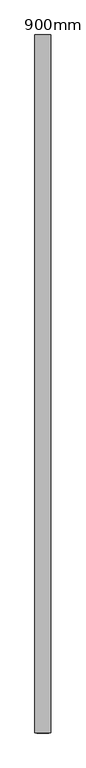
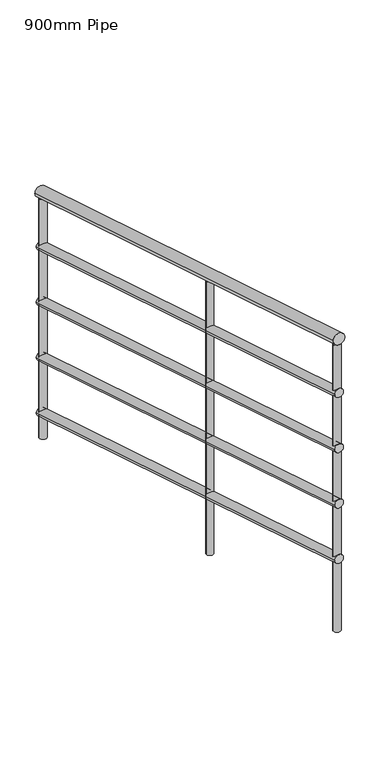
"""IFC4 building model written with IfcOpenShell, lengths in millimetres: railing geometry, 900mm Pipe."""

from ifc_helpers import new_model, si_unit, frame, origin, place, context, project, spatial, circle_curve, ellipse_curve, source, transform, mapped, element, save
from ifc_brep_helpers import plane_surface, cylinder_surface, advanced_brep


def railing_900mm_pipe_833d7426(model_context):
    return source(origin(), model_context, "Body", "AdvancedBrep", [
        advanced_brep(
        [(983189.0192027, 18555.1016126, 8258.386247), (983229.0192027, 18555.1016126, 8258.386247), (983189.0192027, 16789.8692967, 8796.2686), (983229.0192027, 16789.8692967, 8796.2686)],
        [
            (0, 1, ellipse_curve(frame((983209.0192027, 18555.1016126, 8258.386247), z_axis=(0.0, 1.0, 0.0), x_axis=(0.0, 0.0, -1.0)), 20.9078706, 20.0)),
            (1, 0, ellipse_curve(frame((983209.0192027, 18555.1016126, 8258.386247), z_axis=(0.0, 1.0, 0.0), x_axis=(0.0, 0.0, -1.0)), 20.9078706, 20.0)),
            (2, 3, ellipse_curve(frame((983209.0192027, 16789.8692967, 8796.2686), z_axis=(0.0, -1.0, 0.0), x_axis=(0.0, 0.0, -1.0)), 20.9078706, 20.0)),
            (3, 2, ellipse_curve(frame((983209.0192027, 16789.8692967, 8796.2686), z_axis=(0.0, -1.0, 0.0), x_axis=(0.0, 0.0, -1.0)), 20.9078706, 20.0)),
            (1, 3),
            (2, 0),
        ],
        [
            plane_surface(frame((983209.0192027, 18555.1016126, 8279.2941176), z_axis=(0.0, 1.0, 0.0), x_axis=(0.0, 0.0, -1.0))),
            plane_surface(frame((983209.0192027, 16789.8692967, 8817.1764706), z_axis=(0.0, -1.0, 0.0), x_axis=(0.0, 0.0, -1.0))),
            cylinder_surface(frame((983209.0192027, 18549.2720548, 8260.1625663), z_axis=(0.0, 0.9565775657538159, -0.29147789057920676), x_axis=(1.0, 0.0, 0.0)), 20.0),
        ],
        [
            (0, [[1, 2]]),
            (1, [[3, 4]]),
            (2, [[-2, 5, -3, 6]]),
            (2, [[-1, -6, -4, -5]]),
        ],
    ),
        advanced_brep(
        [(983194.0192027, 18555.1016126, 8063.6132147), (983224.0192027, 18555.1016126, 8063.6132147), (983194.0192027, 16789.8692967, 8601.4955676), (983224.0192027, 16789.8692967, 8601.4955676)],
        [
            (0, 1, ellipse_curve(frame((983209.0192027, 18555.1016126, 8063.6132147), z_axis=(0.0, 1.0, 0.0), x_axis=(0.0, 0.0, -1.0)), 15.680903, 15.0)),
            (1, 0, ellipse_curve(frame((983209.0192027, 18555.1016126, 8063.6132147), z_axis=(0.0, 1.0, 0.0), x_axis=(0.0, 0.0, -1.0)), 15.680903, 15.0)),
            (2, 3, ellipse_curve(frame((983209.0192027, 16789.8692967, 8601.4955676), z_axis=(0.0, -1.0, 0.0), x_axis=(0.0, 0.0, -1.0)), 15.680903, 15.0)),
            (3, 2, ellipse_curve(frame((983209.0192027, 16789.8692967, 8601.4955676), z_axis=(0.0, -1.0, 0.0), x_axis=(0.0, 0.0, -1.0)), 15.680903, 15.0)),
            (0, 2),
            (3, 1),
        ],
        [
            plane_surface(frame((983209.0192027, 18555.1016126, 8079.2941176), z_axis=(0.0, 1.0, 0.0), x_axis=(0.0, 0.0, -1.0))),
            plane_surface(frame((983209.0192027, 16789.8692967, 8617.1764706), z_axis=(0.0, -1.0, 0.0), x_axis=(0.0, 0.0, -1.0))),
            cylinder_surface(frame((983209.0192027, 18550.7294443, 8064.9454542), z_axis=(0.0, 0.9565775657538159, -0.29147789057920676), x_axis=(1.0, 0.0, 0.0)), 15.0),
        ],
        [
            (0, [[1, 2]]),
            (1, [[3, 4]]),
            (2, [[-1, 5, -4, 6]]),
            (2, [[-2, -6, -3, -5]]),
        ],
    ),
        advanced_brep(
        [(983194.0192027, 18555.1016126, 7863.6132147), (983224.0192027, 18555.1016126, 7863.6132147), (983194.0192027, 16789.8692967, 8401.4955676), (983224.0192027, 16789.8692967, 8401.4955676)],
        [
            (0, 1, ellipse_curve(frame((983209.0192027, 18555.1016126, 7863.6132147), z_axis=(0.0, 1.0, 0.0), x_axis=(0.0, 0.0, -1.0)), 15.680903, 15.0)),
            (1, 0, ellipse_curve(frame((983209.0192027, 18555.1016126, 7863.6132147), z_axis=(0.0, 1.0, 0.0), x_axis=(0.0, 0.0, -1.0)), 15.680903, 15.0)),
            (2, 3, ellipse_curve(frame((983209.0192027, 16789.8692967, 8401.4955676), z_axis=(0.0, -1.0, 0.0), x_axis=(0.0, 0.0, -1.0)), 15.680903, 15.0)),
            (3, 2, ellipse_curve(frame((983209.0192027, 16789.8692967, 8401.4955676), z_axis=(0.0, -1.0, 0.0), x_axis=(0.0, 0.0, -1.0)), 15.680903, 15.0)),
            (0, 2),
            (3, 1),
        ],
        [
            plane_surface(frame((983209.0192027, 18555.1016126, 7879.2941176), z_axis=(0.0, 1.0, 0.0), x_axis=(0.0, 0.0, -1.0))),
            plane_surface(frame((983209.0192027, 16789.8692967, 8417.1764706), z_axis=(0.0, -1.0, 0.0), x_axis=(0.0, 0.0, -1.0))),
            cylinder_surface(frame((983209.0192027, 18550.7294443, 7864.9454542), z_axis=(0.0, 0.9565775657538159, -0.29147789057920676), x_axis=(1.0, 0.0, 0.0)), 15.0),
        ],
        [
            (0, [[1, 2]]),
            (1, [[3, 4]]),
            (2, [[-1, 5, -4, 6]]),
            (2, [[-2, -6, -3, -5]]),
        ],
    ),
        advanced_brep(
        [(983194.0192027, 18555.1016126, 7663.6132147), (983224.0192027, 18555.1016126, 7663.6132147), (983194.0192027, 16789.8692967, 8201.4955676), (983224.0192027, 16789.8692967, 8201.4955676)],
        [
            (0, 1, ellipse_curve(frame((983209.0192027, 18555.1016126, 7663.6132147), z_axis=(0.0, 1.0, 0.0), x_axis=(0.0, 0.0, -1.0)), 15.680903, 15.0)),
            (1, 0, ellipse_curve(frame((983209.0192027, 18555.1016126, 7663.6132147), z_axis=(0.0, 1.0, 0.0), x_axis=(0.0, 0.0, -1.0)), 15.680903, 15.0)),
            (2, 3, ellipse_curve(frame((983209.0192027, 16789.8692967, 8201.4955676), z_axis=(0.0, -1.0, 0.0), x_axis=(0.0, 0.0, -1.0)), 15.680903, 15.0)),
            (3, 2, ellipse_curve(frame((983209.0192027, 16789.8692967, 8201.4955676), z_axis=(0.0, -1.0, 0.0), x_axis=(0.0, 0.0, -1.0)), 15.680903, 15.0)),
            (0, 2),
            (3, 1),
        ],
        [
            plane_surface(frame((983209.0192027, 18555.1016126, 7679.2941176), z_axis=(0.0, 1.0, 0.0), x_axis=(0.0, 0.0, -1.0))),
            plane_surface(frame((983209.0192027, 16789.8692967, 8217.1764706), z_axis=(0.0, -1.0, 0.0), x_axis=(0.0, 0.0, -1.0))),
            cylinder_surface(frame((983209.0192027, 18550.7294443, 7664.9454542), z_axis=(0.0, 0.9565775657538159, -0.29147789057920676), x_axis=(1.0, 0.0, 0.0)), 15.0),
        ],
        [
            (0, [[1, 2]]),
            (1, [[3, 4]]),
            (2, [[-1, 5, -4, 6]]),
            (2, [[-2, -6, -3, -5]]),
        ],
    ),
        advanced_brep(
        [(983194.0192027, 18555.1016126, 7463.6132147), (983224.0192027, 18555.1016126, 7463.6132147), (983194.0192027, 16789.8692967, 8001.4955676), (983224.0192027, 16789.8692967, 8001.4955676)],
        [
            (0, 1, ellipse_curve(frame((983209.0192027, 18555.1016126, 7463.6132147), z_axis=(0.0, 1.0, 0.0), x_axis=(0.0, 0.0, -1.0)), 15.680903, 15.0)),
            (1, 0, ellipse_curve(frame((983209.0192027, 18555.1016126, 7463.6132147), z_axis=(0.0, 1.0, 0.0), x_axis=(0.0, 0.0, -1.0)), 15.680903, 15.0)),
            (2, 3, ellipse_curve(frame((983209.0192027, 16789.8692967, 8001.4955676), z_axis=(0.0, -1.0, 0.0), x_axis=(0.0, 0.0, -1.0)), 15.680903, 15.0)),
            (3, 2, ellipse_curve(frame((983209.0192027, 16789.8692967, 8001.4955676), z_axis=(0.0, -1.0, 0.0), x_axis=(0.0, 0.0, -1.0)), 15.680903, 15.0)),
            (0, 2),
            (3, 1),
        ],
        [
            plane_surface(frame((983209.0192027, 18555.1016126, 7479.2941176), z_axis=(0.0, 1.0, 0.0), x_axis=(0.0, 0.0, -1.0))),
            plane_surface(frame((983209.0192027, 16789.8692967, 8017.1764706), z_axis=(0.0, -1.0, 0.0), x_axis=(0.0, 0.0, -1.0))),
            cylinder_surface(frame((983209.0192027, 18550.7294443, 7464.9454542), z_axis=(0.0, 0.9565775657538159, -0.29147789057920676), x_axis=(1.0, 0.0, 0.0)), 15.0),
        ],
        [
            (0, [[1, 2]]),
            (1, [[3, 4]]),
            (2, [[-1, 5, -4, 6]]),
            (2, [[-2, -6, -3, -5]]),
        ],
    ),
        advanced_brep(
        [(983221.5192027, 17555.1016126, 8542.1874779), (983196.5192027, 17555.1016126, 8542.1874779), (983196.5192027, 17555.1016126, 7558.5882353), (983221.5192027, 17555.1016126, 7558.5882353)],
        [
            (0, 1, ellipse_curve(frame((983209.0192027, 17555.1016126, 8542.1874779), z_axis=(0.0, -0.2914778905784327, -0.9565775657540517), x_axis=(0.0, -0.9565775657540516, 0.29147789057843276)), 13.0674191, 12.5)),
            (1, 2),
            (2, 3, circle_curve(frame((983209.0192027, 17555.1016126, 7558.5882353), z_axis=(0.0, 0.0, 1.0), x_axis=(-1.0, 0.0, 0.0)), 12.5)),
            (3, 0),
            (3, 2, circle_curve(frame((983209.0192027, 17555.1016126, 7558.5882353), z_axis=(0.0, 0.0, 1.0), x_axis=(-1.0, 0.0, 0.0)), 12.5)),
            (1, 0, ellipse_curve(frame((983209.0192027, 17555.1016126, 8542.1874779), z_axis=(0.0, -0.2914778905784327, -0.9565775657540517), x_axis=(0.0, -0.9565775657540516, 0.29147789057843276)), 13.0674191, 12.5)),
        ],
        [
            cylinder_surface(frame((983209.0192027, 17555.1016126, 7458.5882353), z_axis=(0.0, 0.0, 1.0), x_axis=(-1.0, 0.0, 0.0)), 12.5),
            plane_surface(frame((983184.0192027, 17530.1016126, 8549.8052054), z_axis=(0.0, 0.2914778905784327, 0.9565775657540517), x_axis=(1.0, 0.0, 0.0))),
            plane_surface(frame((983184.0192027, 17580.1016126, 7558.5882353), z_axis=(0.0, 0.0, -1.0), x_axis=(1.0, 0.0, 0.0))),
        ],
        [
            (0, [[1, 2, 3, 4]]),
            (0, [[5, -2, 6, -4]]),
            (1, [[-6, -1]]),
            (2, [[-5, -3]]),
        ],
    ),
        advanced_brep(
        [(983221.5192027, 16802.3692967, 8771.5518655), (983196.5192027, 16802.3692967, 8771.5518655), (983196.5192027, 16802.3692967, 7737.8823529), (983221.5192027, 16802.3692967, 7737.8823529)],
        [
            (0, 1, ellipse_curve(frame((983209.0192027, 16802.3692967, 8771.5518655), z_axis=(0.0, -0.2914778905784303, -0.9565775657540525), x_axis=(0.0, -0.9565775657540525, 0.2914778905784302)), 13.0674191, 12.5)),
            (1, 2),
            (2, 3, circle_curve(frame((983209.0192027, 16802.3692967, 7737.8823529), z_axis=(0.0, 0.0, 1.0), x_axis=(-1.0, 0.0, 0.0)), 12.5)),
            (3, 0),
            (3, 2, circle_curve(frame((983209.0192027, 16802.3692967, 7737.8823529), z_axis=(0.0, 0.0, 1.0), x_axis=(-1.0, 0.0, 0.0)), 12.5)),
            (1, 0, ellipse_curve(frame((983209.0192027, 16802.3692967, 8771.5518655), z_axis=(0.0, -0.2914778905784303, -0.9565775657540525), x_axis=(0.0, -0.9565775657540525, 0.2914778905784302)), 13.0674191, 12.5)),
        ],
        [
            cylinder_surface(frame((983209.0192027, 16802.3692967, 7637.8823529), z_axis=(0.0, 0.0, 1.0), x_axis=(-1.0, 0.0, 0.0)), 12.5),
            plane_surface(frame((983184.0192027, 16777.3692967, 8779.1695931), z_axis=(0.0, 0.2914778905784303, 0.9565775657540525), x_axis=(1.0, 0.0, 0.0))),
            plane_surface(frame((983184.0192027, 16827.3692967, 7737.8823529), z_axis=(0.0, 0.0, -1.0), x_axis=(1.0, 0.0, 0.0))),
        ],
        [
            (0, [[1, 2, 3, 4]]),
            (0, [[5, -2, 6, -4]]),
            (1, [[-6, -1]]),
            (2, [[-5, -3]]),
        ],
    ),
        advanced_brep(
        [(983221.5192027, 18542.6016126, 8241.2872401), (983196.5192027, 18542.6016126, 8241.2872401), (983196.5192027, 18542.6016126, 7379.2941176), (983221.5192027, 18542.6016126, 7379.2941176)],
        [
            (0, 1, ellipse_curve(frame((983209.0192027, 18542.6016126, 8241.2872401), z_axis=(0.0, -0.2914778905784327, -0.9565775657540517), x_axis=(0.0, -0.9565775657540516, 0.29147789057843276)), 13.0674191, 12.5)),
            (1, 2),
            (2, 3, circle_curve(frame((983209.0192027, 18542.6016126, 7379.2941176), z_axis=(0.0, 0.0, 1.0), x_axis=(-1.0, 0.0, 0.0)), 12.5)),
            (3, 0),
            (3, 2, circle_curve(frame((983209.0192027, 18542.6016126, 7379.2941176), z_axis=(0.0, 0.0, 1.0), x_axis=(-1.0, 0.0, 0.0)), 12.5)),
            (1, 0, ellipse_curve(frame((983209.0192027, 18542.6016126, 8241.2872401), z_axis=(0.0, -0.2914778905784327, -0.9565775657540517), x_axis=(0.0, -0.9565775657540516, 0.29147789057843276)), 13.0674191, 12.5)),
        ],
        [
            cylinder_surface(frame((983209.0192027, 18542.6016126, 7279.2941176), z_axis=(0.0, 0.0, 1.0), x_axis=(-1.0, 0.0, 0.0)), 12.5),
            plane_surface(frame((983184.0192027, 18517.6016126, 8248.9049677), z_axis=(0.0, 0.2914778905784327, 0.9565775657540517), x_axis=(1.0, 0.0, 0.0))),
            plane_surface(frame((983184.0192027, 18567.6016126, 7379.2941176), z_axis=(0.0, 0.0, -1.0), x_axis=(1.0, 0.0, 0.0))),
        ],
        [
            (0, [[1, 2, 3, 4]]),
            (0, [[5, -2, 6, -4]]),
            (1, [[-6, -1]]),
            (2, [[-5, -3]]),
        ],
    ),
    ])


if __name__ == "__main__":
    model = new_model("IFC4")
    model_context = context("Model", 3, world=origin())
    ifc_project = project(units=[si_unit("LENGTHUNIT", "METRE", prefix="MILLI")], contexts=[model_context])
    site = spatial("IfcSite", under=ifc_project)
    building = spatial("IfcBuilding", under=site)
    placement = place(None, origin())
    railing_900mm_pipe_shape = railing_900mm_pipe_833d7426(model_context)
    element("IfcRailing", 1, ObjectType="900mm Pipe", at=placement, inside=building, context=model_context, shape_type="MappedRepresentation", body=[
        mapped(railing_900mm_pipe_shape, transform((0.0, 0.0, 0.0), x_axis=(1.0, 0.0, 0.0), y_axis=(0.0, 1.0, 0.0), z_axis=(0.0, 0.0, 1.0))),
    ])
    save(model, "model.ifc")
